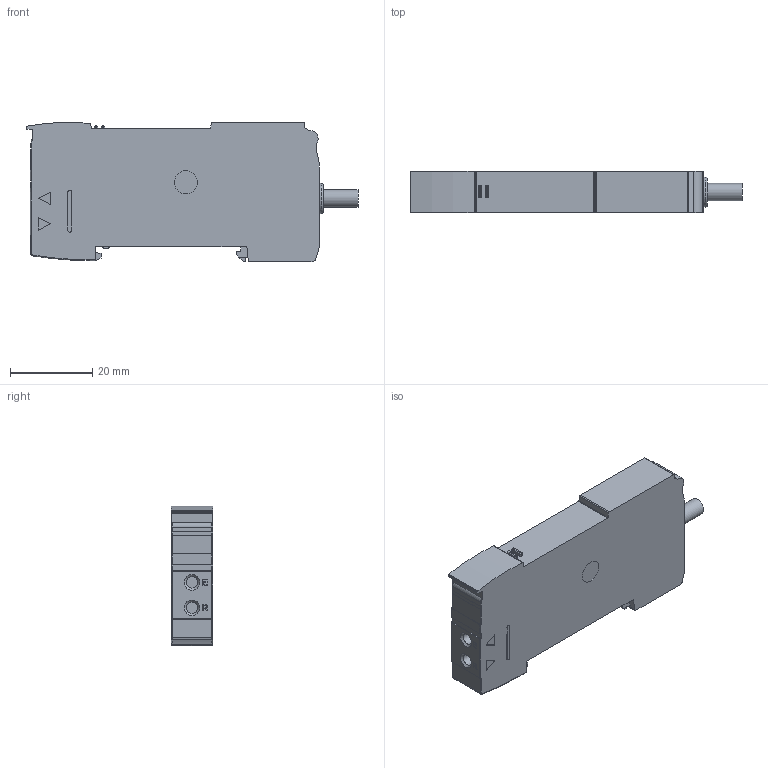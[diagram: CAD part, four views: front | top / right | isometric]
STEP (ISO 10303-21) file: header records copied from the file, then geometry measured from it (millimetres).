
FILE_DESCRIPTION( ( '' ), '1' );
FILE_NAME( 'Z:/bereich/BECH/Services/me_CAD/Solid Edge/Models/Dokumentationen/Opto/Lichtleiter/Yamatake/Verstärker/Vereinfachte Modelle/Neutralformate/FVDK 10P67Y0.stp', '2006-09-22T11:50:03', ( 'Erich Hohloch' ), ( 'Baumer Electric AG' ), 'XStep 1.0', 'Solid Edge', ' ' );
FILE_SCHEMA( ( 'automotive_design' ) );
Length unit declared in the file: millimetre
Products named in the file (1): 1
Bounding box: 80.56 x 10 x 33.85 mm (x, y, z)
Volume: 21732.5 mm3; surface area: 6853.2 mm2
Topology: 1 solids, 1 shells, 192 faces, 489 edges, 317 vertices
Faces by surface type: plane 119, cylinder 52, cone 10, torus 7, extrusion 4
Full cylindrical faces by diameter (mm): 2.8 x2, 4.191 x1, 5.6 x2, 7.281 x1
Entity records: 7423 total; most frequent: CARTESIAN_POINT 1246, ORIENTED_EDGE 956, DIRECTION 941, EDGE_CURVE 478, VERTEX_POINT 315, AXIS2_PLACEMENT_3D 314, VECTOR 313, LINE 309
